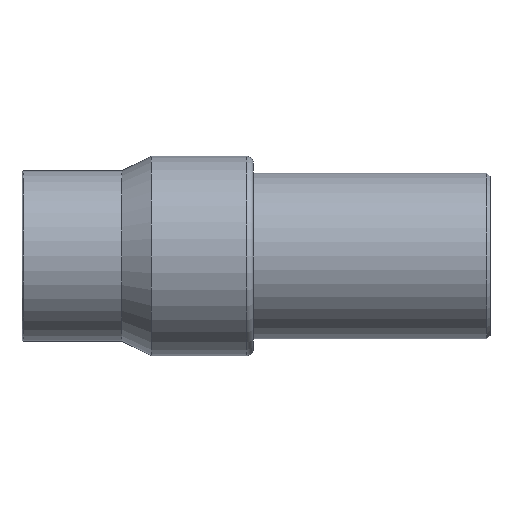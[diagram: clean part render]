
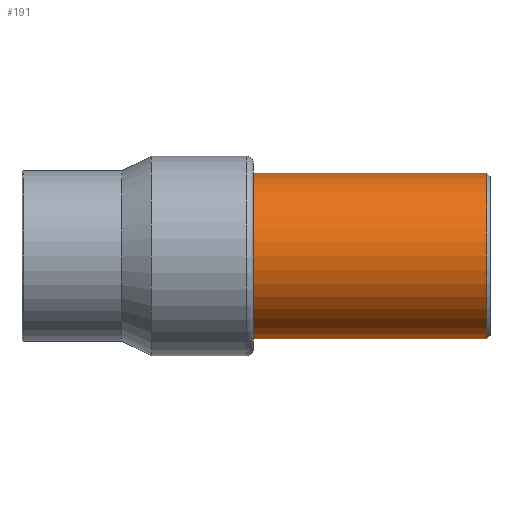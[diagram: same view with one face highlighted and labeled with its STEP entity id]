
A CAD part, left-side view. The second image highlights one B-rep face of the part: STEP entity #191.
In plain terms, the highlighted cylindrical face has radius 109.55 mm (diameter 219.1 mm), a full revolution.
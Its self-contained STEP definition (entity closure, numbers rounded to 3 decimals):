
#42=CYLINDRICAL_SURFACE('',#246,109.55);
#65=ORIENTED_EDGE('',*,*,#85,.T.);
#66=ORIENTED_EDGE('',*,*,#86,.F.);
#85=EDGE_CURVE('',#100,#100,#115,.T.);
#86=EDGE_CURVE('',#101,#101,#116,.T.);
#100=VERTEX_POINT('',#359);
#101=VERTEX_POINT('',#361);
#115=CIRCLE('',#247,109.55);
#116=CIRCLE('',#248,109.55);
#140=EDGE_LOOP('',(#65));
#141=EDGE_LOOP('',(#66));
#170=FACE_BOUND('',#140,.T.);
#171=FACE_BOUND('',#141,.T.);
#191=ADVANCED_FACE('',(#170,#171),#42,.T.);
#246=AXIS2_PLACEMENT_3D('',#357,#304,#305);
#247=AXIS2_PLACEMENT_3D('',#358,#306,#307);
#248=AXIS2_PLACEMENT_3D('',#360,#308,#309);
#304=DIRECTION('',(0.,1.,0.));
#305=DIRECTION('',(0.,0.,1.));
#306=DIRECTION('',(0.,1.,0.));
#307=DIRECTION('',(0.,0.,1.));
#308=DIRECTION('',(0.,1.,0.));
#309=DIRECTION('',(1.,0.,0.));
#357=CARTESIAN_POINT('',(0.,-230.,0.));
#358=CARTESIAN_POINT('',(0.,-226.,0.));
#359=CARTESIAN_POINT('',(0.,-226.,109.55));
#360=CARTESIAN_POINT('',(0.,230.,0.));
#361=CARTESIAN_POINT('',(109.55,230.,0.));
